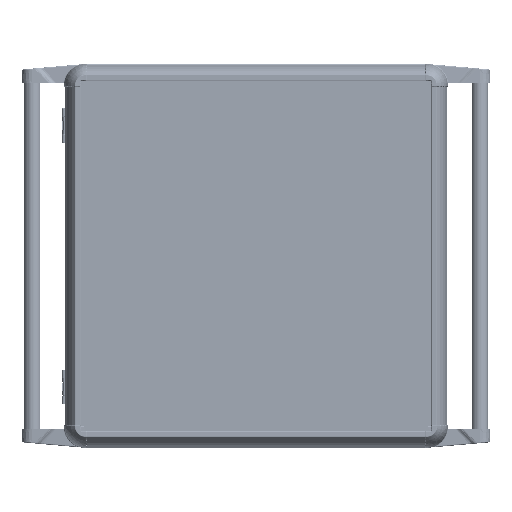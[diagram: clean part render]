
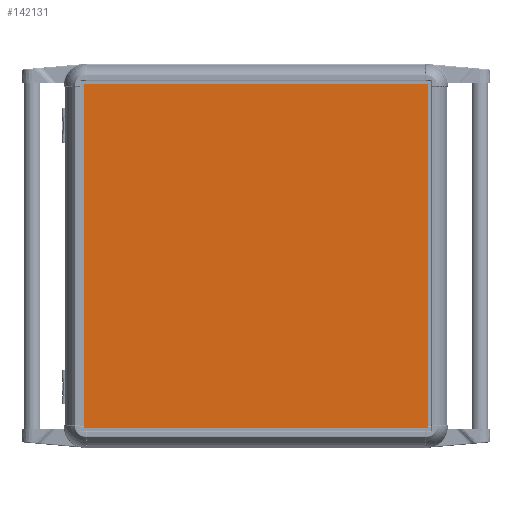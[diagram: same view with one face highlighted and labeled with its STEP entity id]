
A CAD part, top view. The second image highlights one B-rep face of the part: STEP entity #142131.
In plain terms, the highlighted planar face has unit normal (0, 0, 1).
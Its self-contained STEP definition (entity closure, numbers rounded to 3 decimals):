
#16196 = ORIENTED_EDGE ( 'NONE', *, *, #271961, .T. ) ;
#58386 = CARTESIAN_POINT ( 'NONE',  ( 200., 200., 2. ) ) ;
#61264 = DIRECTION ( 'NONE',  ( 0., -1., 0. ) ) ;
#64073 = CARTESIAN_POINT ( 'NONE',  ( -200., -200., 2. ) ) ;
#84202 = LINE ( 'NONE', #177462, #281769 ) ;
#84655 = CARTESIAN_POINT ( 'NONE',  ( -200., 200., 2. ) ) ;
#105240 = CARTESIAN_POINT ( 'NONE',  ( 0., 0., 2. ) ) ;
#111795 = VERTEX_POINT ( 'NONE', #133302 ) ;
#116905 = AXIS2_PLACEMENT_3D ( 'NONE', #105240, #269167, #273680 ) ;
#117230 = VECTOR ( 'NONE', #270093, 1000. ) ;
#128699 = DIRECTION ( 'NONE',  ( 0., 1., 0. ) ) ;
#131117 = CARTESIAN_POINT ( 'NONE',  ( -200., -200., 2. ) ) ;
#133302 = CARTESIAN_POINT ( 'NONE',  ( -200., 200., 2. ) ) ;
#134390 = LINE ( 'NONE', #64073, #161350 ) ;
#142131 = ADVANCED_FACE ( 'NONE', ( #292131 ), #175441, .T. ) ;
#158966 = EDGE_CURVE ( 'NONE', #285259, #216454, #134390, .T. ) ;
#161350 = VECTOR ( 'NONE', #298463, 1000. ) ;
#175441 = PLANE ( 'NONE',  #116905 ) ;
#177462 = CARTESIAN_POINT ( 'NONE',  ( -200., 200., 2. ) ) ;
#209773 = VECTOR ( 'NONE', #128699, 1000. ) ;
#216454 = VERTEX_POINT ( 'NONE', #218837 ) ;
#218837 = CARTESIAN_POINT ( 'NONE',  ( 200., -200., 2. ) ) ;
#227835 = CARTESIAN_POINT ( 'NONE',  ( 200., 200., 2. ) ) ;
#237980 = ORIENTED_EDGE ( 'NONE', *, *, #286855, .T. ) ;
#239501 = EDGE_LOOP ( 'NONE', ( #273142, #16196, #237980, #298504 ) ) ;
#248029 = VERTEX_POINT ( 'NONE', #227835 ) ;
#268235 = LINE ( 'NONE', #58386, #209773 ) ;
#269167 = DIRECTION ( 'NONE',  ( 0., 0., 1. ) ) ;
#270093 = DIRECTION ( 'NONE',  ( -1., 0., 0. ) ) ;
#271596 = LINE ( 'NONE', #84655, #117230 ) ;
#271961 = EDGE_CURVE ( 'NONE', #248029, #111795, #271596, .T. ) ;
#273142 = ORIENTED_EDGE ( 'NONE', *, *, #289246, .T. ) ;
#273680 = DIRECTION ( 'NONE',  ( 1., 0., 0. ) ) ;
#281769 = VECTOR ( 'NONE', #61264, 1000. ) ;
#285259 = VERTEX_POINT ( 'NONE', #131117 ) ;
#286855 = EDGE_CURVE ( 'NONE', #111795, #285259, #84202, .T. ) ;
#289246 = EDGE_CURVE ( 'NONE', #216454, #248029, #268235, .T. ) ;
#292131 = FACE_OUTER_BOUND ( 'NONE', #239501, .T. ) ;
#298463 = DIRECTION ( 'NONE',  ( 1., 0., 0. ) ) ;
#298504 = ORIENTED_EDGE ( 'NONE', *, *, #158966, .T. ) ;
